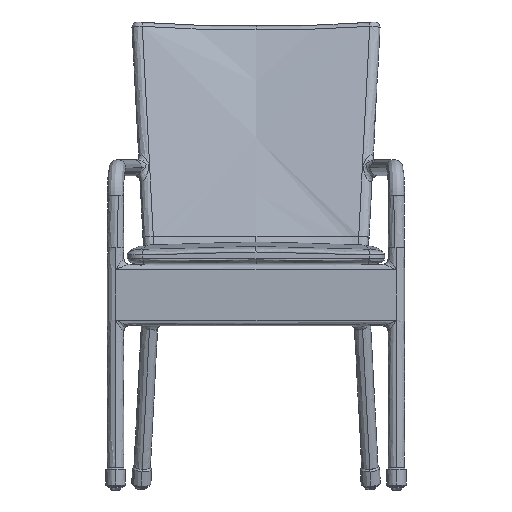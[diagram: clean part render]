
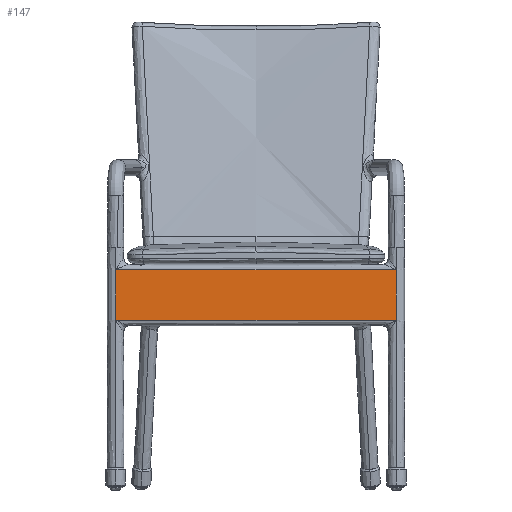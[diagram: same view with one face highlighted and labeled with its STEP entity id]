
A CAD part, front view. The second image highlights one B-rep face of the part: STEP entity #147.
In plain terms, the highlighted planar face has unit normal (0, -1, 0) as drawn and (0, 0, 1) by its records, which use the part's own axes.
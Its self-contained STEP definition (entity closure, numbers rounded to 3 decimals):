
#147=ADVANCED_FACE('',(#366),#3157,.T.);
#366=FACE_OUTER_BOUND('',#590,.T.);
#590=EDGE_LOOP('',(#1114,#1115,#1116,#1117));
#1114=ORIENTED_EDGE('',*,*,#1938,.T.);
#1115=ORIENTED_EDGE('',*,*,#1939,.F.);
#1116=ORIENTED_EDGE('',*,*,#1974,.F.);
#1117=ORIENTED_EDGE('',*,*,#1940,.F.);
#1938=EDGE_CURVE('',#2948,#2919,#2385,.T.);
#1939=EDGE_CURVE('',#2914,#2919,#2386,.T.);
#1940=EDGE_CURVE('',#2948,#2949,#2387,.T.);
#1974=EDGE_CURVE('',#2949,#2914,#2413,.T.);
#2385=B_SPLINE_CURVE_WITH_KNOTS('',1,(#18798,#18799),.UNSPECIFIED.,.F.,
 .F.,(2,2),(0.,510.),.UNSPECIFIED.);
#2386=B_SPLINE_CURVE_WITH_KNOTS('',1,(#18800,#18801),.UNSPECIFIED.,.F.,
 .F.,(2,2),(0.,91.867),.UNSPECIFIED.);
#2387=B_SPLINE_CURVE_WITH_KNOTS('',1,(#18802,#18803),.UNSPECIFIED.,.F.,
 .F.,(2,2),(-91.867,0.),.UNSPECIFIED.);
#2413=B_SPLINE_CURVE_WITH_KNOTS('',1,(#19316,#19317),.UNSPECIFIED.,.F.,
 .F.,(2,2),(-510.,0.),.UNSPECIFIED.);
#2914=VERTEX_POINT('',#17987);
#2919=VERTEX_POINT('',#17992);
#2948=VERTEX_POINT('',#18021);
#2949=VERTEX_POINT('',#18022);
#3157=PLANE('',#3401);
#3401=AXIS2_PLACEMENT_3D('',#14612,#3435,$);
#3435=DIRECTION('',(0.,0.,1.));
#14612=CARTESIAN_POINT('',(-306.001,298.945,585.));
#17987=CARTESIAN_POINT('',(-255.,308.133,585.));
#17992=CARTESIAN_POINT('',(-255.,400.,585.));
#18021=CARTESIAN_POINT('',(255.,400.,585.));
#18022=CARTESIAN_POINT('',(255.,308.133,585.));
#18798=CARTESIAN_POINT('',(255.,400.,585.));
#18799=CARTESIAN_POINT('',(-255.,400.,585.));
#18800=CARTESIAN_POINT('',(-255.,308.133,585.));
#18801=CARTESIAN_POINT('',(-255.,400.,585.));
#18802=CARTESIAN_POINT('',(255.,400.,585.));
#18803=CARTESIAN_POINT('',(255.,308.133,585.));
#19316=CARTESIAN_POINT('',(255.,308.133,585.));
#19317=CARTESIAN_POINT('',(-255.,308.133,585.));
